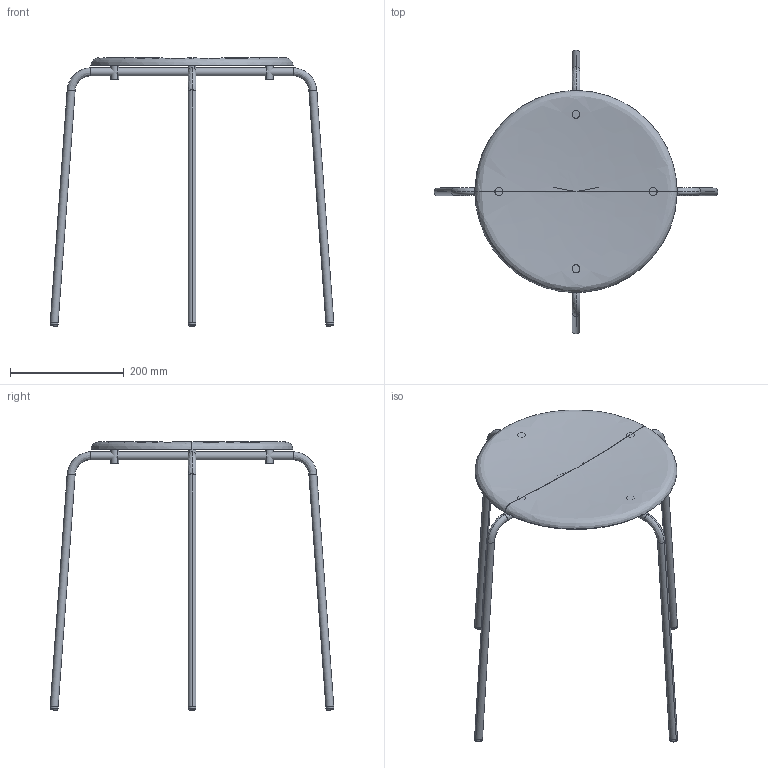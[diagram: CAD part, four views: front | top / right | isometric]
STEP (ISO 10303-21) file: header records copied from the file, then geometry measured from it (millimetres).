
FILE_DESCRIPTION(/* description */ (''),/* implementation_level */ '2;1');
FILE_NAME(/* name */ 'FRAMA_PetitRond-Stool-3D',/* time_stamp */ '2025-10-21T12:15:07+02:00',/* author */ (''),/* organization */ (''),/* preprocessor_version */ 'ST-DEVELOPER v16.5',/* originating_system */ 'Rhino 7.38',/* authorisation */ '');
FILE_SCHEMA (('CONFIG_CONTROL_DESIGN'));
Length unit declared in the file: millimetre
Products named in the file (1): Document
Bounding box: 500.04 x 500.04 x 472.92 mm (x, y, z)
Volume: 183943 mm3; surface area: 336254.7 mm2
Topology: 9 solids, 11 shells, 66 faces, 124 edges, 74 vertices
Faces by surface type: bspline 30, cylinder 20, plane 16
Entity records: 2681 total; most frequent: CARTESIAN_POINT 1802, ORIENTED_EDGE 228, EDGE_CURVE 118, VERTEX_POINT 70, ADVANCED_FACE 66, FACE_OUTER_BOUND 66, EDGE_LOOP 66, DIRECTION 44
